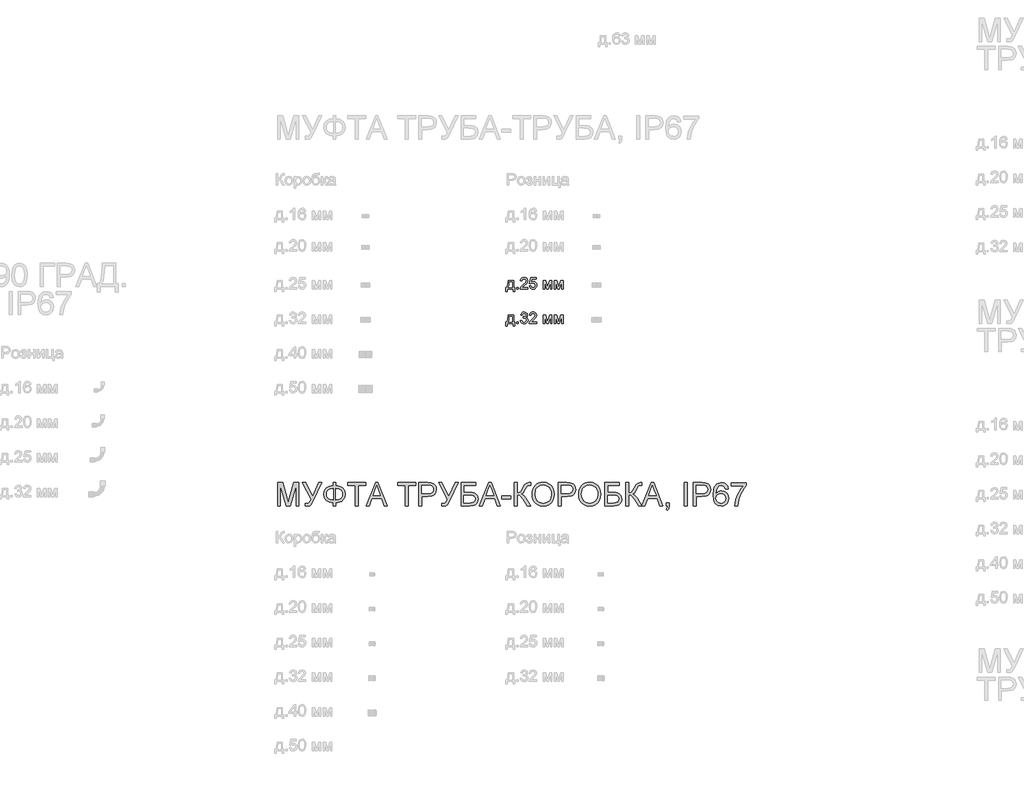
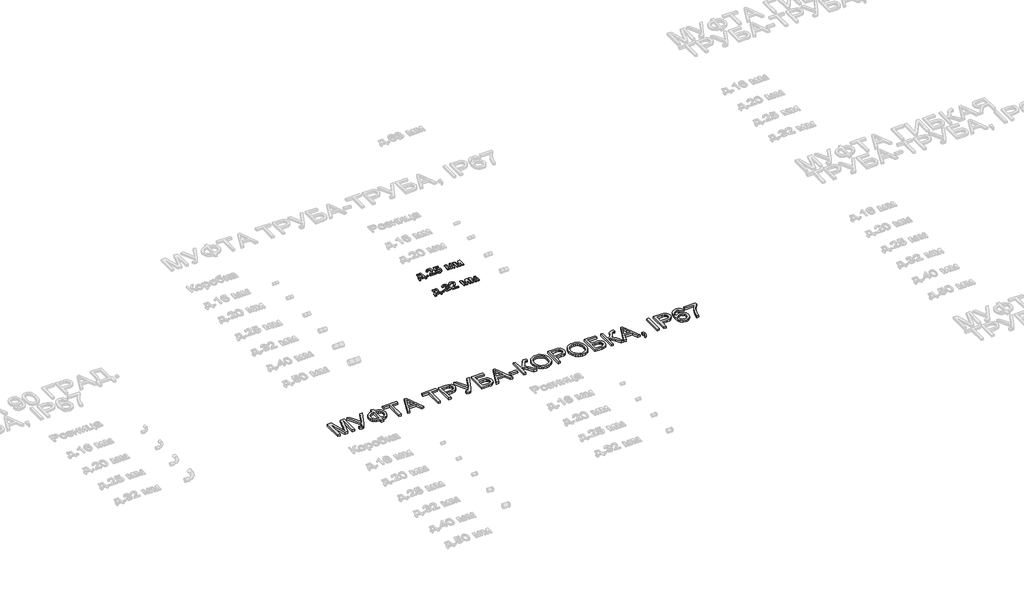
# One storey, part 72 of 98: 3 proxies.
"""IFC4 building model written with IfcOpenShell, lengths in millimetres."""

from ifc_helpers import new_model, si_unit, origin, origin_with_axes, place, context, project, spatial, polyline, outline, extrude, element, save

model = new_model("IFC4")

# Units and contexts
model_context = context("Model", 3, world=origin())
ifc_project = project(units=[si_unit("LENGTHUNIT", "METRE", prefix="MILLI")], contexts=[model_context])

# Site, building, storey
site = spatial("IfcSite", under=ifc_project)
building = spatial("IfcBuilding", under=site)
storey = spatial("IfcBuildingStorey", under=building, Name="Этаж 01", Elevation=0.0)

# Proxies
placement = place(None, origin())
element("IfcBuildingElementProxy", 1, Name="100", ObjectType="100", at=placement, inside=storey, context=model_context, shape_type="SweptSolid", body=[
    extrude(outline(polyline([(10356.3281893, -20085.7395637), (10403.4170847, -20085.7395637), (10403.4170847, -20146.9551277), (10412.8348638, -20146.9551277), (10412.8348638, -20179.9173545), (10400.277825, -20179.9173545), (10400.277825, -20159.5121665), (10348.4800401, -20159.5121665), (10348.4800401, -20179.9173545), (10335.9230013, -20179.9173545), (10335.9230013, -20146.9551277), (10343.7711505, -20146.9551277), (10353.4709725, -20123.0060098), (10356.3281893, -20085.7395637)]), holes=[polyline([(10367.3155982, -20098.2966025), (10364.3725423, -20126.905559), (10357.8978192, -20146.9551277), (10390.8600459, -20146.9551277), (10390.8600459, -20098.2966025), (10367.3155982, -20098.2966025)])]), origin_with_axes(), (0.0, 0.0, 1.0), 10.0),
    extrude(outline(polyline([(10430.1007921, -20159.5121665), (10430.1007921, -20146.9551277), (10442.6578308, -20146.9551277), (10442.6578308, -20159.5121665), (10430.1007921, -20159.5121665)])), origin_with_axes(), (0.0, 0.0, 1.0), 10.0),
    extrude(outline(polyline([(10527.4178425, -20146.9551277), (10527.4178425, -20159.5121665), (10461.493389, -20159.5121665), (10462.8422896, -20150.8546768), (10470.4697097, -20137.5250859), (10486.1905336, -20122.9692216), (10507.8710459, -20102.0489988), (10513.2911739, -20087.8242283), (10508.1776142, -20076.3095219), (10494.8234978, -20071.6128951), (10480.9052956, -20076.1991573), (10475.6200576, -20088.8788234), (10463.0630188, -20087.3091935), (10466.1072424, -20075.1629563), (10472.6892644, -20066.2908689), (10482.4657284, -20060.8646095), (10495.0932779, -20059.0558563), (10507.8127979, -20061.0669445), (10517.5708678, -20067.1002093), (10523.7788765, -20076.1133182), (10525.8482127, -20087.0639389), (10523.6163953, -20098.9710528), (10516.1974417, -20111.2828369), (10498.2080121, -20128.4874515), (10483.7625124, -20140.5662437), (10478.0971297, -20146.9551277), (10527.4178425, -20146.9551277)])), origin_with_axes(), (0.0, 0.0, 1.0), 10.0),
    extrude(outline(polyline([(10539.9748813, -20132.8284591), (10552.5319201, -20131.2588292), (10558.8594904, -20144.1960127), (10571.9806149, -20148.5247575), (10580.981461, -20147.019507), (10587.7259643, -20142.5037555), (10591.9382131, -20135.4986692), (10593.3422961, -20126.5254142), (10588.0815835, -20111.6139307), (10581.475036, -20107.5120464), (10572.1768186, -20106.1447517), (10561.1526215, -20108.3275182), (10554.1015499, -20113.9929009), (10541.5445111, -20112.4232711), (10552.5319201, -20060.6254862), (10601.1904453, -20060.6254862), (10601.1904453, -20073.1825249), (10562.6854631, -20073.1825249), (10557.314386, -20100.847251), (10566.2845753, -20095.4025974), (10575.6839603, -20093.5877129), (10587.4163303, -20095.8379245), (10597.1560061, -20102.5885591), (10603.7135027, -20112.8769922), (10605.8993348, -20125.7405993), (10603.9311662, -20138.2976381), (10598.0266601, -20149.0397923), (10586.7204202, -20158.0712953), (10571.931564, -20161.0817963), (10559.5983201, -20159.1473501), (10549.7728051, -20153.3440117), (10543.0374989, -20144.3462312), (10539.9748813, -20132.8284591)])), origin_with_axes(), (0.0, 0.0, 1.0), 10.0),
    extrude(outline(polyline([(10659.2667496, -20085.7395637), (10680.8736855, -20085.7395637), (10697.5264771, -20144.7968867), (10715.4791185, -20085.7395637), (10736.1786121, -20085.7395637), (10736.1786121, -20159.5121665), (10723.6215733, -20159.5121665), (10723.6215733, -20100.111487), (10705.5708301, -20159.5121665), (10689.0897167, -20159.5121665), (10671.8237884, -20097.2665329), (10671.8237884, -20159.5121665), (10659.2667496, -20159.5121665), (10659.2667496, -20085.7395637)])), origin_with_axes(), (0.0, 0.0, 1.0), 10.0),
    extrude(outline(polyline([(10755.0141702, -20085.7395637), (10776.6211061, -20085.7395637), (10793.2738977, -20144.7968867), (10811.2265391, -20085.7395637), (10831.9260327, -20085.7395637), (10831.9260327, -20159.5121665), (10819.3689939, -20159.5121665), (10819.3689939, -20100.111487), (10801.3182507, -20159.5121665), (10784.8371373, -20159.5121665), (10767.571209, -20097.2665329), (10767.571209, -20159.5121665), (10755.0141702, -20159.5121665), (10755.0141702, -20085.7395637)])), origin_with_axes(), (0.0, 0.0, 1.0), 10.0),
])
element("IfcBuildingElementProxy", 2, Name="100", ObjectType="100", at=placement, inside=storey, context=model_context, shape_type="SweptSolid", body=[
    extrude(outline(polyline([(10356.3281893, -20385.7395637), (10403.4170847, -20385.7395637), (10403.4170847, -20446.9551277), (10412.8348638, -20446.9551277), (10412.8348638, -20479.9173545), (10400.277825, -20479.9173545), (10400.277825, -20459.5121665), (10348.4800401, -20459.5121665), (10348.4800401, -20479.9173545), (10335.9230013, -20479.9173545), (10335.9230013, -20446.9551277), (10343.7711505, -20446.9551277), (10353.4709725, -20423.0060098), (10356.3281893, -20385.7395637)]), holes=[polyline([(10367.3155982, -20398.2966025), (10364.3725423, -20426.905559), (10357.8978192, -20446.9551277), (10390.8600459, -20446.9551277), (10390.8600459, -20398.2966025), (10367.3155982, -20398.2966025)])]), origin_with_axes(), (0.0, 0.0, 1.0), 10.0),
    extrude(outline(polyline([(10430.1007921, -20459.5121665), (10430.1007921, -20446.9551277), (10442.6578308, -20446.9551277), (10442.6578308, -20459.5121665), (10430.1007921, -20459.5121665)])), origin_with_axes(), (0.0, 0.0, 1.0), 10.0),
    extrude(outline(polyline([(10463.0630188, -20432.8284591), (10475.6200576, -20431.2588292), (10482.5485019, -20444.4780556), (10495.5102108, -20448.5247575), (10504.1186495, -20447.1329373), (10510.7650509, -20442.9574767), (10516.4304336, -20429.1741646), (10510.8141018, -20416.1879302), (10496.5402804, -20411.049845), (10487.735638, -20412.4232711), (10489.1335896, -20399.8662323), (10491.1446778, -20400.0133851), (10505.3939738, -20396.4081416), (10510.1396515, -20391.8341421), (10511.7215441, -20385.3226308), (10507.1352819, -20375.5001815), (10495.3140071, -20371.6128951), (10483.3455795, -20375.5369697), (10477.1896875, -20387.3091935), (10464.6326487, -20385.7395637), (10468.3298627, -20374.4639805), (10474.9088191, -20366.0456142), (10483.9096652, -20360.8032958), (10494.8725487, -20359.0558563), (10510.0170242, -20362.5016843), (10520.6120256, -20371.9194634), (10524.2785828, -20384.5868668), (10520.7959666, -20396.1628869), (10510.4952708, -20404.47702), (10524.180481, -20413.0609332), (10528.9874724, -20429.3948938), (10526.5839767, -20441.6331015), (10519.3734896, -20451.860221), (10508.4903139, -20458.7764025), (10495.0687524, -20461.0817963), (10482.9286466, -20459.1136276), (10473.0448836, -20453.2091216), (10466.1716217, -20444.1776186), (10463.0630188, -20432.8284591)])), origin_with_axes(), (0.0, 0.0, 1.0), 10.0),
    extrude(outline(polyline([(10604.329705, -20446.9551277), (10604.329705, -20459.5121665), (10538.4052515, -20459.5121665), (10539.7541521, -20450.8546768), (10547.3815721, -20437.5250859), (10563.1023961, -20422.9692216), (10584.7829083, -20402.0489988), (10590.2030364, -20387.8242283), (10585.0894766, -20376.3095219), (10571.7353602, -20371.6128951), (10557.8171581, -20376.1991573), (10552.5319201, -20388.8788234), (10539.9748813, -20387.3091935), (10543.0191048, -20375.1629563), (10549.6011268, -20366.2908689), (10559.3775909, -20360.8646095), (10572.0051403, -20359.0558563), (10584.7246603, -20361.0669445), (10594.4827303, -20367.1002093), (10600.6907389, -20376.1133182), (10602.7600751, -20387.0639389), (10600.5282577, -20398.9710528), (10593.1093041, -20411.2828369), (10575.1198746, -20428.4874515), (10560.6743749, -20440.5662437), (10555.0089922, -20446.9551277), (10604.329705, -20446.9551277)])), origin_with_axes(), (0.0, 0.0, 1.0), 10.0),
    extrude(outline(polyline([(10659.2667496, -20385.7395637), (10680.8736855, -20385.7395637), (10697.5264771, -20444.7968867), (10715.4791185, -20385.7395637), (10736.1786121, -20385.7395637), (10736.1786121, -20459.5121665), (10723.6215733, -20459.5121665), (10723.6215733, -20400.111487), (10705.5708301, -20459.5121665), (10689.0897167, -20459.5121665), (10671.8237884, -20397.2665329), (10671.8237884, -20459.5121665), (10659.2667496, -20459.5121665), (10659.2667496, -20385.7395637)])), origin_with_axes(), (0.0, 0.0, 1.0), 10.0),
    extrude(outline(polyline([(10755.0141702, -20385.7395637), (10776.6211061, -20385.7395637), (10793.2738977, -20444.7968867), (10811.2265391, -20385.7395637), (10831.9260327, -20385.7395637), (10831.9260327, -20459.5121665), (10819.3689939, -20459.5121665), (10819.3689939, -20400.111487), (10801.3182507, -20459.5121665), (10784.8371373, -20459.5121665), (10767.571209, -20397.2665329), (10767.571209, -20459.5121665), (10755.0141702, -20459.5121665), (10755.0141702, -20385.7395637)])), origin_with_axes(), (0.0, 0.0, 1.0), 10.0),
])
element("IfcBuildingElementProxy", 3, Name="200", ObjectType="200", at=placement, inside=storey, context=model_context, shape_type="SweptSolid", body=[
    extrude(outline(polyline([(8360.7263973, -22037.5373486), (8360.7263973, -21836.6247283), (8403.940269, -21836.6247283), (8445.0449506, -21978.234771), (8453.3345582, -22007.8124834), (8462.3108789, -21975.7822244), (8502.7288474, -21836.6247283), (8545.9427191, -21836.6247283), (8545.9427191, -22037.5373486), (8520.8286416, -22037.5373486), (8520.8286416, -21861.7388059), (8470.3552318, -22037.5373486), (8436.3138845, -22037.5373486), (8385.8404748, -21861.7388059), (8385.8404748, -22037.5373486), (8360.7263973, -22037.5373486)])), origin_with_axes(), (0.0, 0.0, 1.0), 20.0),
    extrude(outline(polyline([(8575.7656862, -21836.6247283), (8603.577565, -21836.6247283), (8663.6649576, -21955.622291), (8717.7190854, -21836.6247283), (8745.2857096, -21836.6247283), (8669.0115092, -21993.1462545), (8648.2629647, -22031.6021858), (8638.41599, -22038.4080027), (8625.0618735, -22040.6766083), (8602.4493936, -22037.5373486), (8602.4493936, -22015.5625308), (8622.2169194, -22015.5625308), (8636.8831483, -22009.9707244), (8650.4702567, -21984.5132904), (8575.7656862, -21836.6247283)])), origin_with_axes(), (0.0, 0.0, 1.0), 20.0),
    extrude(outline(polyline([(8841.0331302, -21861.7388059), (8841.0331302, -21836.6247283), (8866.1472077, -21836.6247283), (8866.1472077, -21861.7388059), (8899.9862199, -21868.53236), (8925.8667183, -21884.7927442), (8942.2926493, -21908.3494546), (8947.7679597, -21937.0319875), (8942.4643276, -21965.2485366), (8926.5534313, -21988.8788234), (8914.8225942, -21998.3517848), (8900.8446112, -22005.4335132), (8866.1472077, -22012.4232711), (8866.1472077, -22037.5373486), (8841.0331302, -22037.5373486), (8841.0331302, -22012.4232711), (8808.9415575, -22006.3102986), (8782.7115712, -21990.7182334), (8772.5181743, -21979.7384886), (8765.2371764, -21967.1308661), (8759.4123782, -21937.0319875), (8765.2187823, -21906.8411385), (8772.4767875, -21894.2657056), (8782.6379948, -21883.3702672), (8808.849587, -21867.9069606), (8841.0331302, -21861.7388059)]), holes=[polyline([(8841.0331302, -21886.8528834), (8818.1815269, -21890.8750599), (8800.1491778, -21900.8814501), (8788.4321362, -21916.4305958), (8784.5264557, -21937.0810385), (8788.3830853, -21957.578197), (8799.952974, -21973.1579995), (8817.9362722, -21983.2563602), (8841.0331302, -21987.3091935), (8841.0331302, -21886.8528834)]), polyline([(8866.1472077, -21886.8528834), (8866.1472077, -21987.3091935), (8889.6426045, -21983.1582584), (8907.5461949, -21973.0598976), (8918.8769603, -21957.529146), (8922.6538822, -21937.0810385), (8918.9444054, -21916.9088424), (8907.815975, -21901.4210104), (8889.9798296, -21891.2061537), (8866.1472077, -21886.8528834)])]), origin_with_axes(), (0.0, 0.0, 1.0), 20.0),
    extrude(outline(polyline([(9032.5279714, -22037.5373486), (9032.5279714, -21861.7388059), (8966.6035179, -21861.7388059), (8966.6035179, -21836.6247283), (9123.5665025, -21836.6247283), (9123.5665025, -21861.7388059), (9057.6420489, -21861.7388059), (9057.6420489, -22037.5373486), (9032.5279714, -22037.5373486)])), origin_with_axes(), (0.0, 0.0, 1.0), 20.0),
    extrude(outline(polyline([(9128.4225448, -22037.5373486), (9208.6208198, -21836.6247283), (9230.0070264, -21836.6247283), (9310.2053014, -22037.5373486), (9283.6687468, -22037.5373486), (9260.6638593, -21974.7521548), (9177.9149359, -21974.7521548), (9154.9590994, -22037.5373486), (9128.4225448, -22037.5373486)]), holes=[polyline([(9187.1365112, -21949.6380772), (9251.4913349, -21949.6380772), (9233.3915408, -21900.243788), (9219.3139231, -21861.7388059), (9206.8059352, -21895.9273059), (9187.1365112, -21949.6380772)])]), origin_with_axes(), (0.0, 0.0, 1.0), 20.0),
    extrude(outline(polyline([(9465.7458089, -22037.5373486), (9465.7458089, -21861.7388059), (9399.8213554, -21861.7388059), (9399.8213554, -21836.6247283), (9556.78434, -21836.6247283), (9556.78434, -21861.7388059), (9490.8598864, -21861.7388059), (9490.8598864, -22037.5373486), (9465.7458089, -22037.5373486)])), origin_with_axes(), (0.0, 0.0, 1.0), 20.0),
    extrude(outline(polyline([(9585.0376772, -22037.5373486), (9585.0376772, -21836.6247283), (9659.496993, -21836.6247283), (9689.5161638, -21838.5377147), (9713.9190029, -21847.9309683), (9722.7910903, -21856.2573641), (9729.7379287, -21867.3551376), (9734.226089, -21880.4456053), (9735.7221424, -21894.7500836), (9731.6815719, -21918.4294213), (9719.5598601, -21938.160159), (9709.852374, -21945.9286004), (9696.8921978, -21951.4774872), (9661.2137757, -21955.9165966), (9610.1517548, -21955.9165966), (9610.1517548, -22037.5373486), (9585.0376772, -22037.5373486)]), holes=[polyline([(9610.1517548, -21930.8025191), (9662.6853037, -21930.8025191), (9684.9544271, -21928.4971252), (9699.6697069, -21921.5809437), (9707.8734754, -21910.4831702), (9710.6080649, -21895.6330003), (9708.9955155, -21884.3512858), (9704.1578673, -21874.8354049), (9696.6959941, -21867.6739687), (9687.21077, -21863.4555885), (9662.0966925, -21861.7388059), (9610.1517548, -21861.7388059), (9610.1517548, -21930.8025191)])]), origin_with_axes(), (0.0, 0.0, 1.0), 20.0),
    extrude(outline(polyline([(9756.1273304, -21836.6247283), (9783.9392093, -21836.6247283), (9844.0266018, -21955.622291), (9898.0807296, -21836.6247283), (9925.6473538, -21836.6247283), (9849.3731535, -21993.1462545), (9828.624609, -22031.6021858), (9818.7776342, -22038.4080027), (9805.4235178, -22040.6766083), (9782.8110378, -22037.5373486), (9782.8110378, -22015.5625308), (9802.5785637, -22015.5625308), (9817.2447926, -22009.9707244), (9830.8319009, -21984.5132904), (9756.1273304, -21836.6247283)])), origin_with_axes(), (0.0, 0.0, 1.0), 20.0),
    extrude(outline(polyline([(9949.1918015, -21836.6247283), (10074.7621892, -21836.6247283), (10074.7621892, -21861.7388059), (9974.305879, -21861.7388059), (9974.305879, -21921.38474), (10021.3457235, -21921.38474), (10044.7307557, -21922.6600643), (10062.7937616, -21926.486037), (10076.6629128, -21933.8559396), (10087.4663808, -21945.7630535), (10094.4193505, -21961.09147), (10096.737007, -21978.7252803), (10095.0876694, -21993.5325306), (10090.1396566, -22007.3464995), (10081.917494, -22019.4436858), (10070.4457071, -22029.1005882), (10052.7505831, -22035.4281585), (10025.8584093, -22037.5373486), (9949.1918015, -22037.5373486), (9949.1918015, -21836.6247283)]), holes=[polyline([(9974.305879, -22012.4232711), (10028.1147522, -22012.4232711), (10047.1342514, -22010.3508692), (10060.7336224, -22004.1336635), (10068.9006027, -21993.7716539), (10071.6229295, -21979.2648406), (10070.0655624, -21968.4613727), (10065.3934611, -21959.5954166), (10057.9438506, -21953.0225916), (10048.0539563, -21949.098517), (10010.2111618, -21946.4988175), (9974.305879, -21946.4988175), (9974.305879, -22012.4232711)])]), origin_with_axes(), (0.0, 0.0, 1.0), 20.0),
    extrude(outline(polyline([(10107.8715688, -22037.5373486), (10188.0698437, -21836.6247283), (10209.4560504, -21836.6247283), (10289.6543253, -22037.5373486), (10263.1177707, -22037.5373486), (10240.1128833, -21974.7521548), (10157.3639598, -21974.7521548), (10134.4081233, -22037.5373486), (10107.8715688, -22037.5373486)]), holes=[polyline([(10166.5855352, -21949.6380772), (10230.9403589, -21949.6380772), (10212.8405647, -21900.243788), (10198.762947, -21861.7388059), (10186.2549592, -21895.9273059), (10166.5855352, -21949.6380772)])]), origin_with_axes(), (0.0, 0.0, 1.0), 20.0),
    extrude(outline(polyline([(10300.788887, -21977.8914145), (10300.788887, -21952.7773369), (10379.2703793, -21952.7773369), (10379.2703793, -21977.8914145), (10300.788887, -21977.8914145)])), origin_with_axes(), (0.0, 0.0, 1.0), 20.0),
    extrude(outline(polyline([(10410.6629763, -21836.6247283), (10435.7770538, -21836.6247283), (10435.7770538, -21924.5239997), (10452.7793333, -21922.8623994), (10463.8587128, -21917.8775983), (10472.8166393, -21906.148294), (10483.4545604, -21884.253184), (10497.3114489, -21856.171525), (10513.0077473, -21842.2655856), (10535.448549, -21836.6247283), (10551.9296624, -21836.9190339), (10551.9296624, -21862.0331114), (10546.386907, -21861.8859586), (10540.8441516, -21861.7388059), (10529.3417079, -21863.247122), (10521.2237785, -21867.7720706), (10506.312295, -21893.6219121), (10488.5313319, -21925.1126109), (10471.1918272, -21935.5114086), (10490.5792083, -21946.8666995), (10509.6968094, -21970.5337746), (10551.9296624, -22037.5373486), (10522.7934084, -22037.5373486), (10487.0843294, -21980.9325723), (10461.9457264, -21951.3793853), (10450.3390494, -21945.3645147), (10435.7770538, -21943.3595578), (10435.7770538, -22037.5373486), (10410.6629763, -22037.5373486), (10410.6629763, -21836.6247283)])), origin_with_axes(), (0.0, 0.0, 1.0), 20.0),
    extrude(outline(polyline([(10564.4867012, -21939.7297888), (10566.1605643, -21916.1638814), (10571.1821535, -21895.3019065), (10579.5514689, -21877.1438644), (10591.2685104, -21861.6897549), (10605.6312367, -21849.3503797), (10621.9376061, -21840.5365402), (10640.1876187, -21835.2482365), (10660.3812746, -21833.4854686), (10686.7338882, -21836.7964066), (10710.364175, -21846.7292204), (10729.9845481, -21862.5849344), (10744.3074204, -21883.6645728), (10753.0630119, -21908.9503286), (10755.9815424, -21937.424395), (10752.9097277, -21966.2786061), (10743.6942838, -21991.9199812), (10728.8441139, -22013.0364077), (10708.8681215, -22028.3157733), (10685.4401698, -22037.5863995), (10660.2341218, -22040.6766083), (10633.476838, -22037.2614371), (10609.7116611, -22027.0159236), (10590.140339, -22010.865904), (10575.9646194, -21989.7372147), (10567.3561807, -21965.4263462), (10564.4867012, -21939.7297888)]), holes=[polyline([(10589.6007787, -21939.9750435), (10594.6223679, -21971.4044286), (10609.6871356, -21995.3535465), (10632.3302725, -22010.5102847), (10660.086969, -22015.5625308), (10688.2483357, -22010.4612338), (10710.9282607, -21995.1573428), (10719.6516625, -21983.8848253), (10725.8826638, -21970.4724609), (10730.8674649, -21937.2281913), (10728.7337493, -21914.995856), (10722.3326026, -21895.7801531), (10711.8295716, -21880.0654606), (10697.3902033, -21868.3361563), (10679.9709908, -21861.0336987), (10660.5284274, -21858.5995462), (10633.5136262, -21863.2900416), (10610.545527, -21877.3615279), (10601.3821996, -21888.3106158), (10594.8369658, -21902.3958977), (10589.6007787, -21939.9750435)])]), origin_with_axes(), (0.0, 0.0, 1.0), 20.0),
    extrude(outline(polyline([(10790.513399, -22037.5373486), (10790.513399, -21836.6247283), (10864.9727148, -21836.6247283), (10894.9918856, -21838.5377147), (10919.3947247, -21847.9309683), (10928.2668121, -21856.2573641), (10935.2136504, -21867.3551376), (10939.7018108, -21880.4456053), (10941.1978642, -21894.7500836), (10937.1572937, -21918.4294213), (10925.0355819, -21938.160159), (10915.3280958, -21945.9286004), (10902.3679196, -21951.4774872), (10866.6894975, -21955.9165966), (10815.6274765, -21955.9165966), (10815.6274765, -22037.5373486), (10790.513399, -22037.5373486)]), holes=[polyline([(10815.6274765, -21930.8025191), (10868.1610255, -21930.8025191), (10890.4301489, -21928.4971252), (10905.1454287, -21921.5809437), (10913.3491972, -21910.4831702), (10916.0837867, -21895.6330003), (10914.4712373, -21884.3512858), (10909.633589, -21874.8354049), (10902.1717159, -21867.6739687), (10892.6864918, -21863.4555885), (10867.5724143, -21861.7388059), (10815.6274765, -21861.7388059), (10815.6274765, -21930.8025191)])]), origin_with_axes(), (0.0, 0.0, 1.0), 20.0),
    extrude(outline(polyline([(10966.3119418, -21939.7297888), (10967.9858049, -21916.1638814), (10973.0073941, -21895.3019065), (10981.3767095, -21877.1438644), (10993.093751, -21861.6897549), (11007.4564772, -21849.3503797), (11023.7628467, -21840.5365402), (11042.0128593, -21835.2482365), (11062.2065152, -21833.4854686), (11088.5591288, -21836.7964066), (11112.1894156, -21846.7292204), (11131.8097887, -21862.5849344), (11146.132661, -21883.6645728), (11154.8882525, -21908.9503286), (11157.806783, -21937.424395), (11154.7349683, -21966.2786061), (11145.5195244, -21991.9199812), (11130.6693545, -22013.0364077), (11110.6933621, -22028.3157733), (11087.2654104, -22037.5863995), (11062.0593624, -22040.6766083), (11035.3020786, -22037.2614371), (11011.5369017, -22027.0159236), (10991.9655796, -22010.865904), (10977.78986, -21989.7372147), (10969.1814213, -21965.4263462), (10966.3119418, -21939.7297888)]), holes=[polyline([(10991.4260193, -21939.9750435), (10996.4476085, -21971.4044286), (11011.5123762, -21995.3535465), (11034.155513, -22010.5102847), (11061.9122096, -22015.5625308), (11090.0735763, -22010.4612338), (11112.7535013, -21995.1573428), (11121.4769031, -21983.8848253), (11127.7079044, -21970.4724609), (11132.6927055, -21937.2281913), (11130.5589899, -21914.995856), (11124.1578432, -21895.7801531), (11113.6548122, -21880.0654606), (11099.2154439, -21868.3361563), (11081.7962314, -21861.0336987), (11062.353668, -21858.5995462), (11035.3388668, -21863.2900416), (11012.3707676, -21877.3615279), (11003.2074402, -21888.3106158), (10996.6622064, -21902.3958977), (10991.4260193, -21939.9750435)])]), origin_with_axes(), (0.0, 0.0, 1.0), 20.0),
    extrude(outline(polyline([(11192.3386396, -21836.6247283), (11317.9090273, -21836.6247283), (11317.9090273, -21861.7388059), (11217.4527171, -21861.7388059), (11217.4527171, -21921.38474), (11264.4925616, -21921.38474), (11287.8775938, -21922.6600643), (11305.9405997, -21926.486037), (11319.8097509, -21933.8559396), (11330.6132189, -21945.7630535), (11337.5661886, -21961.09147), (11339.8838451, -21978.7252803), (11338.2345075, -21993.5325306), (11333.2864947, -22007.3464995), (11325.0643321, -22019.4436858), (11313.5925452, -22029.1005882), (11295.8974213, -22035.4281585), (11269.0052474, -22037.5373486), (11192.3386396, -22037.5373486), (11192.3386396, -21836.6247283)]), holes=[polyline([(11217.4527171, -22012.4232711), (11271.2615903, -22012.4232711), (11290.2810895, -22010.3508692), (11303.8804605, -22004.1336635), (11312.0474408, -21993.7716539), (11314.7697676, -21979.2648406), (11313.2124005, -21968.4613727), (11308.5402992, -21959.5954166), (11301.0906887, -21953.0225916), (11291.2007944, -21949.098517), (11253.3579999, -21946.4988175), (11217.4527171, -21946.4988175), (11217.4527171, -22012.4232711)])]), origin_with_axes(), (0.0, 0.0, 1.0), 20.0),
    extrude(outline(polyline([(11374.4157018, -21836.6247283), (11399.5297793, -21836.6247283), (11399.5297793, -21924.5239997), (11416.5320588, -21922.8623994), (11427.6114383, -21917.8775983), (11436.5693648, -21906.148294), (11447.2072859, -21884.253184), (11461.0641744, -21856.171525), (11476.7604728, -21842.2655856), (11499.2012745, -21836.6247283), (11515.6823879, -21836.9190339), (11515.6823879, -21862.0331114), (11510.1396325, -21861.8859586), (11504.5968771, -21861.7388059), (11493.0944334, -21863.247122), (11484.976504, -21867.7720706), (11470.0650205, -21893.6219121), (11452.2840574, -21925.1126109), (11434.9445527, -21935.5114086), (11454.3319338, -21946.8666995), (11473.4495349, -21970.5337746), (11515.6823879, -22037.5373486), (11486.5461339, -22037.5373486), (11450.8370549, -21980.9325723), (11425.6984519, -21951.3793853), (11414.0917749, -21945.3645147), (11399.5297793, -21943.3595578), (11399.5297793, -22037.5373486), (11374.4157018, -22037.5373486), (11374.4157018, -21836.6247283)])), origin_with_axes(), (0.0, 0.0, 1.0), 20.0),
    extrude(outline(polyline([(11514.2599109, -22037.5373486), (11594.4581858, -21836.6247283), (11615.8443925, -21836.6247283), (11696.0426674, -22037.5373486), (11669.5061128, -22037.5373486), (11646.5012254, -21974.7521548), (11563.7523019, -21974.7521548), (11540.7964654, -22037.5373486), (11514.2599109, -22037.5373486)]), holes=[polyline([(11572.9738773, -21949.6380772), (11637.328701, -21949.6380772), (11619.2289068, -21900.243788), (11605.1512891, -21861.7388059), (11592.6433013, -21895.9273059), (11572.9738773, -21949.6380772)])]), origin_with_axes(), (0.0, 0.0, 1.0), 20.0),
    extrude(outline(polyline([(11726.0127873, -22037.5373486), (11726.0127873, -22012.4232711), (11751.1268648, -22012.4232711), (11751.1268648, -22037.5373486), (11746.614179, -22063.2155119), (11740.777118, -22071.8913956), (11732.2913067, -22078.3477246), (11726.0127873, -22068.9299455), (11735.2343626, -22058.0896894), (11738.5207751, -22037.5373486), (11726.0127873, -22037.5373486)])), origin_with_axes(), (0.0, 0.0, 1.0), 20.0),
    extrude(outline(polyline([(11882.9757719, -22037.5373486), (11882.9757719, -21836.6247283), (11908.0898494, -21836.6247283), (11908.0898494, -22037.5373486), (11882.9757719, -22037.5373486)])), origin_with_axes(), (0.0, 0.0, 1.0), 20.0),
    extrude(outline(polyline([(11958.3180045, -22037.5373486), (11958.3180045, -21836.6247283), (12032.7773203, -21836.6247283), (12062.7964911, -21838.5377147), (12087.1993301, -21847.9309683), (12096.0714176, -21856.2573641), (12103.0182559, -21867.3551376), (12107.5064163, -21880.4456053), (12109.0024697, -21894.7500836), (12104.9618991, -21918.4294213), (12092.8401874, -21938.160159), (12083.1327013, -21945.9286004), (12070.1725251, -21951.4774872), (12034.494103, -21955.9165966), (11983.432082, -21955.9165966), (11983.432082, -22037.5373486), (11958.3180045, -22037.5373486)]), holes=[polyline([(11983.432082, -21930.8025191), (12035.9656309, -21930.8025191), (12058.2347544, -21928.4971252), (12072.9500342, -21921.5809437), (12081.1538027, -21910.4831702), (12083.8883922, -21895.6330003), (12082.2758428, -21884.3512858), (12077.4381945, -21874.8354049), (12069.9763214, -21867.6739687), (12060.4910973, -21863.4555885), (12035.3770198, -21861.7388059), (11983.432082, -21861.7388059), (11983.432082, -21930.8025191)])]), origin_with_axes(), (0.0, 0.0, 1.0), 20.0),
    extrude(outline(polyline([(12262.8261946, -21889.9921431), (12237.7121171, -21893.1314028), (12228.1962362, -21872.1866545), (12216.804157, -21864.350768), (12203.0331077, -21861.7388059), (12180.3715768, -21867.8211215), (12170.9354036, -21877.4289729), (12163.2282758, -21890.6543307), (12158.0227456, -21909.3611301), (12156.0913651, -21935.4133068), (12166.1652004, -21923.659477), (12178.2378612, -21915.3760007), (12191.6348972, -21910.4647761), (12205.6818581, -21908.8277012), (12228.8829492, -21913.3035988), (12248.3561695, -21926.7312917), (12261.5631331, -21947.2468443), (12265.9654543, -21972.9863212), (12263.8930524, -21990.9696194), (12257.6758467, -22007.6408051), (12247.828872, -22021.7797365), (12234.867163, -22032.1662715), (12219.379331, -22038.5490241), (12201.9539872, -22040.6766083), (12173.4615266, -22035.035751), (12150.7693389, -22018.1131793), (12142.1103164, -22005.0043175), (12135.9253004, -21988.2411613), (12130.9772876, -21943.7519653), (12136.470992, -21893.7322767), (12143.3381226, -21874.6545296), (12152.9521054, -21859.5315139), (12163.3723629, -21849.5097952), (12175.4542208, -21842.3514247), (12204.6027375, -21836.6247283), (12226.638869, -21840.1686582), (12244.2849421, -21850.8004479), (12256.6457771, -21867.6862314), (12262.8261946, -21889.9921431)]), holes=[polyline([(12156.0913651, -21972.5939137), (12161.9039006, -21994.3480024), (12177.3549444, -22010.1424027), (12199.9919499, -22015.5625308), (12216.5650337, -22012.7543649), (12229.5941877, -22004.3298672), (12238.0370795, -21991.0861154), (12240.8513768, -21973.820187), (12238.0738677, -21957.2471032), (12229.7413405, -21944.6103566), (12216.4914573, -21936.6089232), (12198.9618803, -21933.9417788), (12182.4133219, -21936.6089232), (12168.5748275, -21944.6103566), (12159.2122307, -21956.9405348), (12156.0913651, -21972.5939137)])]), origin_with_axes(), (0.0, 0.0, 1.0), 20.0),
    extrude(outline(polyline([(12287.9402722, -21864.8780655), (12287.9402722, -21839.763988), (12419.7891792, -21839.763988), (12419.7891792, -21860.0710741), (12400.9965407, -21883.8546451), (12382.3878431, -21914.1006765), (12365.9741747, -21948.0500533), (12353.7666238, -21982.9436605), (12344.4469466, -22037.5373486), (12319.3328691, -22037.5373486), (12322.0490645, -22011.6507189), (12329.3147339, -21980.8835214), (12340.9336736, -21948.2707825), (12356.7096798, -21916.8475287), (12375.128305, -21888.4409073), (12394.6751017, -21864.8780655), (12287.9402722, -21864.8780655)])), origin_with_axes(), (0.0, 0.0, 1.0), 20.0),
])

save(model, "model.ifc")
